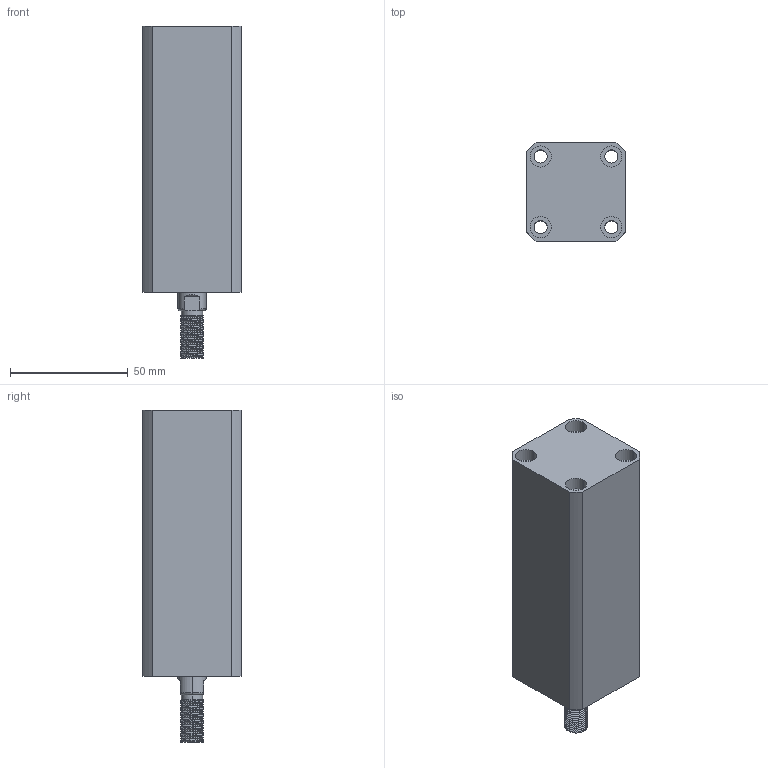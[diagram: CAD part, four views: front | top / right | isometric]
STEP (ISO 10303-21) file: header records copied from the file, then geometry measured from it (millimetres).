
FILE_DESCRIPTION (( 'STEP AP214' ), '1' );
FILE_NAME ('chtb-sd20x70w_asm.STEP', '2018-05-16T10:03:19', ( 'Windows' ), ( 'Microsoft' ), 'SwSTEP 2.0', 'SolidWorks 2015', '' );
FILE_SCHEMA (( 'AUTOMOTIVE_DESIGN' ));
Length unit declared in the file: millimetre
Products named in the file (4): QG; CHTB-SD20X70WHSG; CHTB-SD20X70NBT; chtb-sd20x70w_asm
Assembly tree (3 placements, depth 2):
  chtb-sd20x70w_asm
    CHTB-SD20X70NBT
    CHTB-SD20X70WHSG
    QG
Bounding box: 42 x 42 x 141 mm (x, y, z)
Volume: 168356.9 mm3; surface area: 48350.4 mm2
Topology: 3 solids, 3 shells, 234 faces, 624 edges, 415 vertices
Faces by surface type: cylinder 139, plane 40, torus 25, bspline 21, cone 9
Entity records: 13734 total; most frequent: CARTESIAN_POINT 8172, ORIENTED_EDGE 1240, DIRECTION 1039, EDGE_CURVE 620, AXIS2_PLACEMENT_3D 431, VERTEX_POINT 415, EDGE_LOOP 271, FACE_OUTER_BOUND 234
